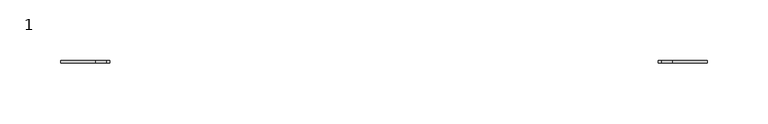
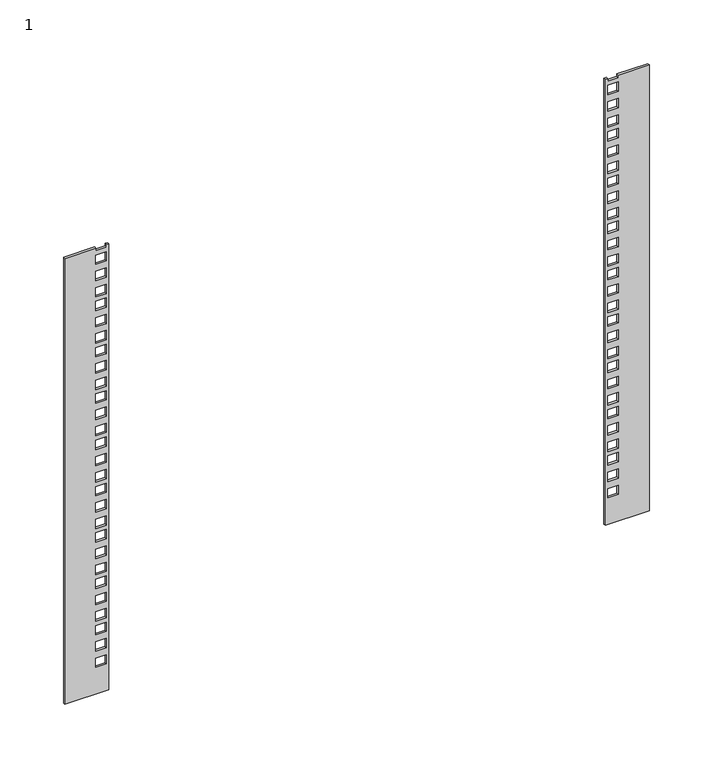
"""IFC4 building model written with IfcOpenShell, lengths in millimetres: proxy geometry, 1 : 9U 450мм стеклянная дверь."""

import ifcopenshell
import ifcopenshell.guid

model = None  # the IFC model being written
_history = None  # IfcOwnerHistory: only IFC2X3 demands one
_inside = {}  # id of a spatial element -> (the spatial element, [elements in it])
_under = {}  # id of a project, library or spatial element -> (it, [spatial elements below it])
_declared = {}  # id of a project -> (the project, [libraries it declares])
_typed = {}  # id of a type object -> (the type object, [elements of that type])
_made_of = {}  # id of a material, layer set ... -> (it, [elements and type objects made of it])


def new_model(schema):
    """Start an empty IFC model of exactly this schema.

    Asked for "IFC4X3", IfcOpenShell would pick the latest addendum, in which some entities
    have other attributes; the version numbers below select the first issue.
    IFC2X3 requires an IfcOwnerHistory on every rooted entity: one is made here for all.
    """
    global model, _history
    if schema == "IFC4X3":
        model = ifcopenshell.file(schema_version=(4, 3, 0, 0))
    else:
        model = ifcopenshell.file(schema=schema)
    _inside.clear()
    _under.clear()
    _declared.clear()
    _typed.clear()
    _made_of.clear()
    _history = None
    if model.schema == "IFC2X3":
        org = make("IfcOrganization", Name="unknown")
        user = make(
            "IfcPersonAndOrganization",
            ThePerson=make("IfcPerson", FamilyName="unknown"),
            TheOrganization=org,
        )
        app = make(
            "IfcApplication",
            ApplicationDeveloper=org,
            Version="unknown",
            ApplicationFullName="unknown",
            ApplicationIdentifier="unknown",
        )
        _history = make(
            "IfcOwnerHistory",
            OwningUser=user,
            OwningApplication=app,
            ChangeAction="ADDED",
            CreationDate=0,
        )
    return model


def make(cls, **values):
    """One entity of the class cls with the attributes given. An attribute that is None is left unset."""
    return model.create_entity(
        cls, **{name: value for name, value in values.items() if value is not None}
    )


def rooted(cls, **values):
    """An entity with a GlobalId (a new one), such as an element, a storey or a relation."""
    return make(cls, GlobalId=ifcopenshell.guid.new(), OwnerHistory=_history, **values)


def si_unit(unit_type, name, prefix=None):
    """IfcSIUnit, for example si_unit("LENGTHUNIT", "METRE", prefix="MILLI")."""
    return make("IfcSIUnit", UnitType=unit_type, Prefix=prefix, Name=name)


def assignment(units):
    """IfcUnitAssignment: the units of a project."""
    return None if units is None else make("IfcUnitAssignment", Units=units)


def point(xyz):
    """IfcCartesianPoint."""
    return None if xyz is None else make("IfcCartesianPoint", Coordinates=xyz)


def direction(xyz):
    """IfcDirection."""
    return None if xyz is None else make("IfcDirection", DirectionRatios=xyz)


def frame(location, z_axis=None, x_axis=None):
    """IfcAxis2Placement3D, a coordinate frame: its origin and axes. An axis left out is left unset."""
    return make(
        "IfcAxis2Placement3D",
        Location=point(location),
        Axis=direction(z_axis),
        RefDirection=direction(x_axis),
    )


def origin():
    """The frame at (0, 0, 0) with its axes left unset."""
    return frame((0.0, 0.0, 0.0))


def place(relative_to, where):
    """IfcLocalPlacement: puts the frame where relative to a parent placement (None: the world)."""
    return make(
        "IfcLocalPlacement", PlacementRelTo=relative_to, RelativePlacement=where
    )


def context(
    kind, dimensions, precision=None, world=None, true_north=None, identifier=None
):
    """IfcGeometricRepresentationContext, for example the 3D "Model" context."""
    return make(
        "IfcGeometricRepresentationContext",
        ContextIdentifier=identifier,
        ContextType=kind,
        CoordinateSpaceDimension=dimensions,
        Precision=precision,
        WorldCoordinateSystem=world,
        TrueNorth=true_north,
    )


def project(units=None, contexts=None):
    """IfcProject with its units and contexts."""
    return rooted(
        "IfcProject",
        Name="project",
        RepresentationContexts=contexts,
        UnitsInContext=assignment(units),
    )


def spatial(cls, under=None, at=None, **own):
    """A site, building, storey or space (cls), placed at a placement, below another one or the project."""
    s = rooted(cls, ObjectPlacement=at, **own)
    if under is not None:
        _under.setdefault(under.id(), (under, []))[1].append(s)
    return s


def polyline(points):
    """IfcPolyline through the points."""
    return make("IfcPolyline", Points=[point(p) for p in points])


def outline(outer, holes=None, kind="AREA"):
    """IfcArbitraryClosedProfileDef: a profile drawn as a closed curve; with holes, ...WithVoids."""
    if holes is None:
        return make("IfcArbitraryClosedProfileDef", ProfileType=kind, OuterCurve=outer)
    return make(
        "IfcArbitraryProfileDefWithVoids",
        ProfileType=kind,
        OuterCurve=outer,
        InnerCurves=holes,
    )


def extrude(swept, where, along, depth):
    """IfcExtrudedAreaSolid: the profile swept, set in the frame where, extruded along a direction by depth."""
    return make(
        "IfcExtrudedAreaSolid",
        SweptArea=swept,
        Position=where,
        ExtrudedDirection=direction(along),
        Depth=depth,
    )


def shape(context_of_items, identifier, shape_type, items):
    """IfcShapeRepresentation: the items that make up one representation, for example the "Body"."""
    return make(
        "IfcShapeRepresentation",
        ContextOfItems=context_of_items,
        RepresentationIdentifier=identifier,
        RepresentationType=shape_type,
        Items=items,
    )


def source(mapping_origin, context_of_items, identifier, shape_type, items):
    """IfcRepresentationMap: a shape defined once, which mapped items show again and again."""
    return make(
        "IfcRepresentationMap",
        MappingOrigin=mapping_origin,
        MappedRepresentation=shape(context_of_items, identifier, shape_type, items),
    )


def transform(
    local_origin,
    x_axis=None,
    y_axis=None,
    z_axis=None,
    scale=None,
    scale2=None,
    scale3=None,
    uniform=True,
):
    """IfcCartesianTransformationOperator3D, or its non-uniform kind. x_axis, y_axis, z_axis: its Axis1, 2, 3."""
    if uniform:
        return make(
            "IfcCartesianTransformationOperator3D",
            Axis1=direction(x_axis),
            Axis2=direction(y_axis),
            LocalOrigin=point(local_origin),
            Scale=scale,
            Axis3=direction(z_axis),
        )
    return make(
        "IfcCartesianTransformationOperator3DnonUniform",
        Axis1=direction(x_axis),
        Axis2=direction(y_axis),
        LocalOrigin=point(local_origin),
        Scale=scale,
        Axis3=direction(z_axis),
        Scale2=scale2,
        Scale3=scale3,
    )


def mapped(mapping_source, mapping_target):
    """IfcMappedItem: shows the shape of a source again, moved by a transform."""
    return make(
        "IfcMappedItem", MappingSource=mapping_source, MappingTarget=mapping_target
    )


def made_of(thing, what):
    """Note that an element or type object is made of a material, layer set ...; save() writes the relation."""
    if what is not None:
        _made_of.setdefault(what.id(), (what, []))[1].append(thing)
    return thing


def element(
    cls,
    number,
    at=None,
    inside=None,
    cuts=None,
    type_object=None,
    material=None,
    context=None,
    identifier="Body",
    shape_type=None,
    held_by="IfcProductDefinitionShape",
    body=None,
    shapes=None,
    **own,
):
    """One element of the class cls, such as IfcWall. Its Tag is "e" and its number.

    at: its placement. inside: the storey or other place that contains it. cuts: it is an
    opening in that element (IfcRelVoidsElement). A single representation is given by context,
    identifier, shape_type and body (its items); several are given by shapes. held_by: the class
    of the entity that holds the representations. save() writes the other relations.
    """
    e = rooted(cls, Tag="e%d" % number, ObjectPlacement=at, **own)
    if body is not None:
        shapes = [shape(context, identifier, shape_type, body)]
    if shapes is not None:
        e.Representation = make(held_by, Representations=shapes)
    if inside is not None:
        _inside.setdefault(inside.id(), (inside, []))[1].append(e)
    if cuts is not None:
        rooted(
            "IfcRelVoidsElement", RelatingBuildingElement=cuts, RelatedOpeningElement=e
        )
    if type_object is not None:
        _typed.setdefault(type_object.id(), (type_object, []))[1].append(e)
    return made_of(e, material)


def aggregate(whole, parts):
    """IfcRelAggregates: a whole, such as a stair, and the parts it consists of."""
    return rooted("IfcRelAggregates", RelatingObject=whole, RelatedObjects=parts)


def save(model, path):
    """Write the relations noted so far, then the file.

    IfcRelAggregates (storeys below a building ...), IfcRelContainedInSpatialStructure (elements
    in a storey), IfcRelDefinesByType, IfcRelAssociatesMaterial and IfcRelDeclares: one each for
    every whole, place, type object, material and project.
    """
    for whole, parts in _under.values():
        aggregate(whole, parts)
    for where, things in _inside.values():
        rooted(
            "IfcRelContainedInSpatialStructure",
            RelatedElements=things,
            RelatingStructure=where,
        )
    for kind, things in _typed.values():
        rooted("IfcRelDefinesByType", RelatedObjects=things, RelatingType=kind)
    for what, things in _made_of.values():
        rooted("IfcRelAssociatesMaterial", RelatedObjects=things, RelatingMaterial=what)
    for by, libraries in _declared.values():
        rooted("IfcRelDeclares", RelatingContext=by, RelatedDefinitions=libraries)
    model.write(path)


def proxy_1_51f37a2a(model_context):
    return source(origin(), model_context, "Body", "SweptSolid", [
        extrude(outline(polyline([(20.4675, 225.3), (20.4675, 265.3), (448.4675, 265.3), (448.4675, 237.05), (446.1175, 237.05), (446.1175, 227.55), (448.4675, 227.55), (448.4675, 225.3), (20.4675, 225.3)]), holes=[polyline([(55.0175, 227.55), (55.0175, 237.05), (46.0675, 237.05), (46.0675, 227.55), (55.0175, 227.55)]), polyline([(70.6675, 227.55), (70.6675, 237.05), (61.7175, 237.05), (61.7175, 227.55), (70.6675, 227.55)]), polyline([(86.3175, 227.55), (86.3175, 237.05), (77.3675, 237.05), (77.3675, 227.55), (86.3175, 227.55)]), polyline([(99.4675, 237.05), (90.5175, 237.05), (90.5175, 227.55), (99.4675, 227.55), (99.4675, 237.05)]), polyline([(115.1175, 237.05), (106.1675, 237.05), (106.1675, 227.55), (115.1175, 227.55), (115.1175, 237.05)]), polyline([(130.7675, 237.05), (121.8175, 237.05), (121.8175, 227.55), (130.7675, 227.55), (130.7675, 237.05)]), polyline([(143.9175, 237.05), (134.9675, 237.05), (134.9675, 227.55), (143.9175, 227.55), (143.9175, 237.05)]), polyline([(159.5675, 237.05), (150.6175, 237.05), (150.6175, 227.55), (159.5675, 227.55), (159.5675, 237.05)]), polyline([(175.2175, 237.05), (166.2675, 237.05), (166.2675, 227.55), (175.2175, 227.55), (175.2175, 237.05)]), polyline([(188.3675, 237.05), (179.4175, 237.05), (179.4175, 227.55), (188.3675, 227.55), (188.3675, 237.05)]), polyline([(204.0175, 237.05), (195.0675, 237.05), (195.0675, 227.55), (204.0175, 227.55), (204.0175, 237.05)]), polyline([(219.6675, 237.05), (210.7175, 237.05), (210.7175, 227.55), (219.6675, 227.55), (219.6675, 237.05)]), polyline([(232.8175, 237.05), (223.8675, 237.05), (223.8675, 227.55), (232.8175, 227.55), (232.8175, 237.05)]), polyline([(248.4675, 237.05), (239.5175, 237.05), (239.5175, 227.55), (248.4675, 227.55), (248.4675, 237.05)]), polyline([(264.1175, 237.05), (255.1675, 237.05), (255.1675, 227.55), (264.1175, 227.55), (264.1175, 237.05)]), polyline([(277.2675, 237.05), (268.3175, 237.05), (268.3175, 227.55), (277.2675, 227.55), (277.2675, 237.05)]), polyline([(292.9175, 237.05), (283.9675, 237.05), (283.9675, 227.55), (292.9175, 227.55), (292.9175, 237.05)]), polyline([(308.5675, 237.05), (299.6175, 237.05), (299.6175, 227.55), (308.5675, 227.55), (308.5675, 237.05)]), polyline([(321.7175, 237.05), (312.7675, 237.05), (312.7675, 227.55), (321.7175, 227.55), (321.7175, 237.05)]), polyline([(337.3675, 237.05), (328.4175, 237.05), (328.4175, 227.55), (337.3675, 227.55), (337.3675, 237.05)]), polyline([(353.0175, 237.05), (344.0675, 237.05), (344.0675, 227.55), (353.0175, 227.55), (353.0175, 237.05)]), polyline([(366.1675, 237.05), (357.2175, 237.05), (357.2175, 227.55), (366.1675, 227.55), (366.1675, 237.05)]), polyline([(381.8175, 237.05), (372.8675, 237.05), (372.8675, 227.55), (381.8175, 227.55), (381.8175, 237.05)]), polyline([(397.4675, 237.05), (388.5175, 237.05), (388.5175, 227.55), (397.4675, 227.55), (397.4675, 237.05)]), polyline([(410.6175, 237.05), (401.6675, 237.05), (401.6675, 227.55), (410.6175, 227.55), (410.6175, 237.05)]), polyline([(426.2675, 237.05), (417.3175, 237.05), (417.3175, 227.55), (426.2675, 227.55), (426.2675, 237.05)]), polyline([(441.9175, 237.05), (432.9675, 237.05), (432.9675, 227.55), (441.9175, 227.55), (441.9175, 237.05)])]), frame((0.0, -179.6777479, 0.0), z_axis=(0.0, 1.0, 0.0), x_axis=(0.0, 0.0, 1.0)), (0.0, 0.0, 1.0), 2.0),
        extrude(outline(polyline([(20.4675, -265.7), (20.4675, -225.7), (448.4675, -225.7), (448.4675, -227.95), (446.1175, -227.95), (446.1175, -237.45), (448.4675, -237.45), (448.4675, -265.7), (20.4675, -265.7)]), holes=[polyline([(55.0175, -237.45), (55.0175, -227.95), (46.0675, -227.95), (46.0675, -237.45), (55.0175, -237.45)]), polyline([(70.6675, -237.45), (70.6675, -227.95), (61.7175, -227.95), (61.7175, -237.45), (70.6675, -237.45)]), polyline([(86.3175, -237.45), (86.3175, -227.95), (77.3675, -227.95), (77.3675, -237.45), (86.3175, -237.45)]), polyline([(90.5175, -237.45), (99.4675, -237.45), (99.4675, -227.95), (90.5175, -227.95), (90.5175, -237.45)]), polyline([(106.1675, -237.45), (115.1175, -237.45), (115.1175, -227.95), (106.1675, -227.95), (106.1675, -237.45)]), polyline([(121.8175, -237.45), (130.7675, -237.45), (130.7675, -227.95), (121.8175, -227.95), (121.8175, -237.45)]), polyline([(134.9675, -237.45), (143.9175, -237.45), (143.9175, -227.95), (134.9675, -227.95), (134.9675, -237.45)]), polyline([(150.6175, -237.45), (159.5675, -237.45), (159.5675, -227.95), (150.6175, -227.95), (150.6175, -237.45)]), polyline([(166.2675, -237.45), (175.2175, -237.45), (175.2175, -227.95), (166.2675, -227.95), (166.2675, -237.45)]), polyline([(179.4175, -237.45), (188.3675, -237.45), (188.3675, -227.95), (179.4175, -227.95), (179.4175, -237.45)]), polyline([(195.0675, -237.45), (204.0175, -237.45), (204.0175, -227.95), (195.0675, -227.95), (195.0675, -237.45)]), polyline([(210.7175, -237.45), (219.6675, -237.45), (219.6675, -227.95), (210.7175, -227.95), (210.7175, -237.45)]), polyline([(223.8675, -237.45), (232.8175, -237.45), (232.8175, -227.95), (223.8675, -227.95), (223.8675, -237.45)]), polyline([(239.5175, -237.45), (248.4675, -237.45), (248.4675, -227.95), (239.5175, -227.95), (239.5175, -237.45)]), polyline([(255.1675, -237.45), (264.1175, -237.45), (264.1175, -227.95), (255.1675, -227.95), (255.1675, -237.45)]), polyline([(268.3175, -237.45), (277.2675, -237.45), (277.2675, -227.95), (268.3175, -227.95), (268.3175, -237.45)]), polyline([(283.9675, -237.45), (292.9175, -237.45), (292.9175, -227.95), (283.9675, -227.95), (283.9675, -237.45)]), polyline([(299.6175, -237.45), (308.5675, -237.45), (308.5675, -227.95), (299.6175, -227.95), (299.6175, -237.45)]), polyline([(312.7675, -237.45), (321.7175, -237.45), (321.7175, -227.95), (312.7675, -227.95), (312.7675, -237.45)]), polyline([(328.4175, -237.45), (337.3675, -237.45), (337.3675, -227.95), (328.4175, -227.95), (328.4175, -237.45)]), polyline([(344.0675, -237.45), (353.0175, -237.45), (353.0175, -227.95), (344.0675, -227.95), (344.0675, -237.45)]), polyline([(357.2175, -237.45), (366.1675, -237.45), (366.1675, -227.95), (357.2175, -227.95), (357.2175, -237.45)]), polyline([(372.8675, -237.45), (381.8175, -237.45), (381.8175, -227.95), (372.8675, -227.95), (372.8675, -237.45)]), polyline([(388.5175, -237.45), (397.4675, -237.45), (397.4675, -227.95), (388.5175, -227.95), (388.5175, -237.45)]), polyline([(401.6675, -237.45), (410.6175, -237.45), (410.6175, -227.95), (401.6675, -227.95), (401.6675, -237.45)]), polyline([(417.3175, -237.45), (426.2675, -237.45), (426.2675, -227.95), (417.3175, -227.95), (417.3175, -237.45)]), polyline([(432.9675, -237.45), (441.9175, -237.45), (441.9175, -227.95), (432.9675, -227.95), (432.9675, -237.45)])]), frame((0.0, -179.6777479, 0.0), z_axis=(0.0, 1.0, 0.0), x_axis=(0.0, 0.0, 1.0)), (0.0, 0.0, 1.0), 2.0),
    ])


if __name__ == "__main__":
    model = new_model("IFC4")
    model_context = context("Model", 3, world=origin())
    ifc_project = project(units=[si_unit("LENGTHUNIT", "METRE", prefix="MILLI")], contexts=[model_context])
    site = spatial("IfcSite", under=ifc_project)
    building = spatial("IfcBuilding", under=site)
    placement = place(None, origin())
    proxy_1_shape = proxy_1_51f37a2a(model_context)
    element("IfcBuildingElementProxy", 1, Name="1 : 9U 450мм стеклянная дверь", ObjectType="1 : 9U 450мм стеклянная дверь", at=placement, inside=building, context=model_context, shape_type="MappedRepresentation", body=[
        mapped(proxy_1_shape, transform((0.0, 0.0, 0.0), x_axis=(1.0, 0.0, 0.0), y_axis=(0.0, 1.0, 0.0), z_axis=(0.0, 0.0, 1.0))),
    ])
    save(model, "model.ifc")
